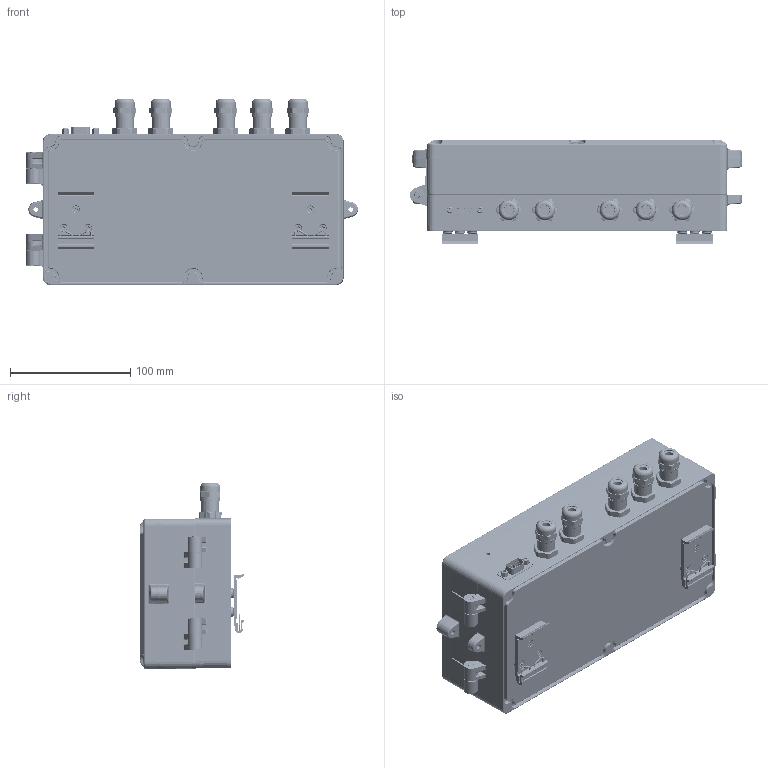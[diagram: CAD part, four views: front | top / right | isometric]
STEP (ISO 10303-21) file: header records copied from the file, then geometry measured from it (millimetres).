
FILE_DESCRIPTION(('STEP AP242'), '1');
FILE_NAME('ﾂ韭 5', '', ('UNSPECIFIED'), ('UNSPECIFIED'), 'ASCON STEP Converter 1.6', 'ASCON Math Kernel', '');
FILE_SCHEMA(('AP242_MANAGED_MODEL_BASED_3D_ENGINEERING_MIM_LF { 1 0 10303 442 1 1 4 }'));
Length unit declared in the file: millimetre
Products named in the file (35): 婽挭.735214.091; 婽挭.735214.087; 婽挭.735214.088; ØÊÑÄ.426469.012 Áëîê âòîðè÷íîãî ïðåîáðàçîâàòåëÿ; 婽挭.433814.003 沓劌錪 鴈儰罻襜譇; TIC32_BL bulk; TIC32; DI-9搪人世; ﾊﾎﾆﾓﾕ; PART1; PART2; PART3; PART4; PART5; PART6; PART7; PART8; PART9; PART10; 庉俵衭1; ﾏﾅﾐﾅﾌﾛﾗﾊﾀ; ﾄﾍﾎ; ﾇﾀﾙﾅﾋﾊﾀ
Assembly tree (48 placements, depth 4):
  (unnamed)
    婽挭.735214.091
    (unnamed)  x2
    婽挭.735214.087
    婽挭.735214.088
    ØÊÑÄ.426469.012 Áëîê âòîðè÷íîãî ïðåîáðàçîâàòåëÿ
      婽挭.433814.003 沓劌錪 鴈儰罻襜譇
        TIC32_BL bulk
        TIC32
    (unnamed)  x6
    (unnamed)  x2
      (unnamed)
      (unnamed)
      (unnamed)
    DI-9搪人世
      ﾊﾎﾆﾓﾕ
        PART1
        PART2
        PART3
        PART4
        PART5
        PART6
        PART7
        PART8
        PART9
        PART10
      庉俵衭1
      ﾏﾅﾐﾅﾌﾛﾗﾊﾀ
      ﾄﾍﾎ
        ﾇﾀﾙﾅﾋﾊﾀ
      (unnamed)  x2
    (unnamed)  x5
      (unnamed)
      (unnamed)
      (unnamed)
Bounding box: 275.98 x 87 x 154.6 mm (x, y, z)
Volume: 397140.1 mm3; surface area: 399241.6 mm2
Topology: 61 solids, 62 shells, 5757 faces, 15031 edges, 9544 vertices
Faces by surface type: plane 2602, cylinder 1189, cone 807, torus 661, bspline 470, sphere 16, revolution 12
Full cylindrical faces by diameter (mm): 0.1 x1, 1 x9, 1.5 x14, 2 x10, 2.362 x2, 2.381 x2, 2.5 x40, 2.621 x6, 3 x72, 3.2 x2, 3.242 x6, 3.3 x6, 3.459 x7, 4 x12, 5 x18, 5.5 x6, 7 x6, 8 x5, 8.2 x10, 8.5 x9, 9 x2, 10.1 x10, 11 x1, 12.2 x10, 13.8 x5, 13.86 x5, 14.4 x5, 14.53 x10, 15.2 x5, 15.4 x10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
Entity records: 220491 total; most frequent: CARTESIAN_POINT 84723, DIRECTION 17813, ORIENTED_EDGE 17125, EDGE_CURVE 8563, AXIS2_PLACEMENT_3D 7188, VERTEX_POINT 5657, PROPERTY_DEFINITION 4828, PROPERTY_DEFINITION_REPRESENTATION 4828
